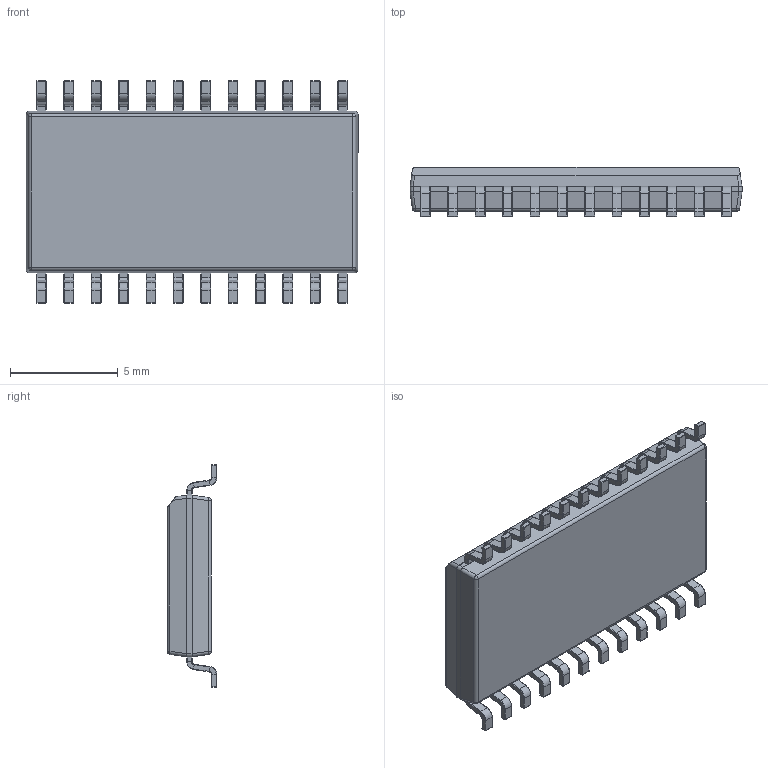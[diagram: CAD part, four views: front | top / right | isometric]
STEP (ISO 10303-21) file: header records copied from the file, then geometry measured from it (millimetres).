
FILE_DESCRIPTION (( 'STEP AP214' ), '1' );
FILE_NAME ('DFBB2C9B-39C7-4115-BCC6-6E55116F6436.STEP', '2023-05-18T00:00:31', ( '' ), ( '' ), 'SwSTEP 2.0', 'SolidWorks 2022', '' );
FILE_SCHEMA (( 'AUTOMOTIVE_DESIGN' ));
Length unit declared in the file: millimetre
Products named in the file (1): DFBB2C9B-39C7-4115-BCC6-6E55116F6436
Bounding box: 15.4 x 2.3 x 10.3 mm (x, y, z)
Volume: 235.9 mm3; surface area: 615.9 mm2
Topology: 26 solids, 26 shells, 1266 faces, 2886 edges, 1590 vertices
Faces by surface type: cylinder 501, plane 469, torus 194, sphere 102
Entity records: 49607 total; most frequent: CARTESIAN_POINT 7329, DIRECTION 6314, ORIENTED_EDGE 5568, EDGE_CURVE 2784, AXIS2_PLACEMENT_3D 2449, VERTEX_POINT 1590, VECTOR 1416, LINE 1416
